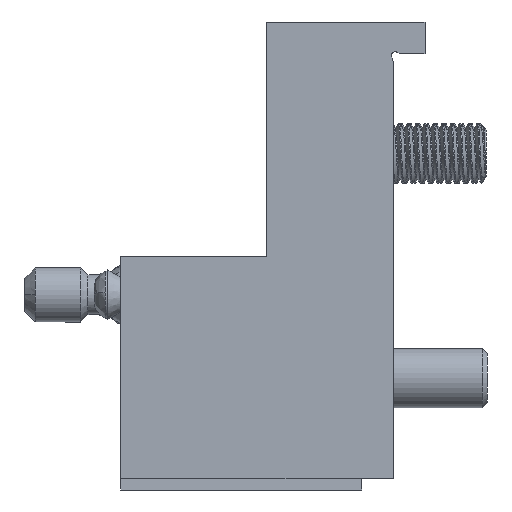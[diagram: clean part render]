
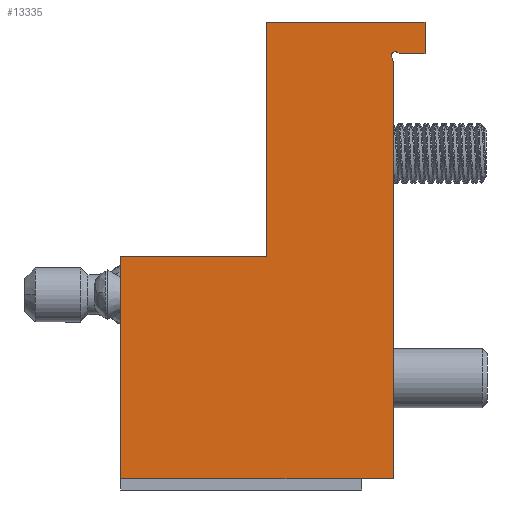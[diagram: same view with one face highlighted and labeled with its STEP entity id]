
A CAD part, left-side view. The second image highlights one B-rep face of the part: STEP entity #13335.
In plain terms, the highlighted planar face has unit normal (1, 0, 0).
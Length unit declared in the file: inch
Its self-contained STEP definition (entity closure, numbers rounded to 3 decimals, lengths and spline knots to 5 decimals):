
#66 = ORIENTED_EDGE ( 'NONE', *, *, #6141, .F. ) ;
#156 = AXIS2_PLACEMENT_3D ( 'NONE', #9825, #2448, #16868 ) ;
#159 = DIRECTION ( 'NONE',  ( 0., 0., -1. ) ) ;
#407 = LINE ( 'NONE', #3412, #14578 ) ;
#734 = VERTEX_POINT ( 'NONE', #14314 ) ;
#738 = CARTESIAN_POINT ( 'NONE',  ( -2., -1.15, 3.6 ) ) ;
#768 = EDGE_CURVE ( 'NONE', #17133, #955, #15894, .T. ) ;
#937 = EDGE_LOOP ( 'NONE', ( #66, #8645, #5757, #1065, #8304, #11691, #14600, #5799, #15997, #11624, #14728, #3555 ) ) ;
#955 = VERTEX_POINT ( 'NONE', #13618 ) ;
#991 = LINE ( 'NONE', #6737, #13673 ) ;
#1065 = ORIENTED_EDGE ( 'NONE', *, *, #1668, .T. ) ;
#1431 = CARTESIAN_POINT ( 'NONE',  ( -2., -3.28681, 3.32474 ) ) ;
#1668 = EDGE_CURVE ( 'NONE', #17007, #13761, #9230, .T. ) ;
#2448 = DIRECTION ( 'NONE',  ( 1., 0., 0. ) ) ;
#2635 = CARTESIAN_POINT ( 'NONE',  ( -2., -3.34588, 3.35 ) ) ;
#2799 = LINE ( 'NONE', #9882, #2997 ) ;
#2851 = CARTESIAN_POINT ( 'NONE',  ( -2., -3.315, 3.365 ) ) ;
#2997 = VECTOR ( 'NONE', #5806, 39.37008 ) ;
#3102 = CARTESIAN_POINT ( 'NONE',  ( -2., -1.15, 0. ) ) ;
#3380 = DIRECTION ( 'NONE',  ( 0., 0., 1. ) ) ;
#3412 = CARTESIAN_POINT ( 'NONE',  ( -2., -1.15, 3.35 ) ) ;
#3422 = CIRCLE ( 'NONE', #11856, 0.03 ) ;
#3555 = ORIENTED_EDGE ( 'NONE', *, *, #5485, .T. ) ;
#3613 = DIRECTION ( 'NONE',  ( 0., -1., 0. ) ) ;
#3686 = VECTOR ( 'NONE', #6879, 39.37008 ) ;
#3850 = VERTEX_POINT ( 'NONE', #2851 ) ;
#4806 = VERTEX_POINT ( 'NONE', #15428 ) ;
#4998 = VERTEX_POINT ( 'NONE', #10438 ) ;
#5334 = CARTESIAN_POINT ( 'NONE',  ( -2., -3.55, 3.6 ) ) ;
#5485 = EDGE_CURVE ( 'NONE', #3850, #15564, #14092, .T. ) ;
#5757 = ORIENTED_EDGE ( 'NONE', *, *, #14745, .T. ) ;
#5799 = ORIENTED_EDGE ( 'NONE', *, *, #768, .T. ) ;
#5806 = DIRECTION ( 'NONE',  ( 0., -0.819, -0.574 ) ) ;
#5892 = CARTESIAN_POINT ( 'NONE',  ( -2., -3.3, 3.2885 ) ) ;
#6141 = EDGE_CURVE ( 'NONE', #14053, #15564, #12312, .T. ) ;
#6329 = EDGE_CURVE ( 'NONE', #4998, #734, #6792, .T. ) ;
#6737 = CARTESIAN_POINT ( 'NONE',  ( -2., -1.15, 0. ) ) ;
#6792 = LINE ( 'NONE', #15455, #3686 ) ;
#6879 = DIRECTION ( 'NONE',  ( 0., 0., 1. ) ) ;
#7890 = CARTESIAN_POINT ( 'NONE',  ( -2., -1.15, 1.75 ) ) ;
#8099 = CARTESIAN_POINT ( 'NONE',  ( -2., -3.33221, 3.35957 ) ) ;
#8304 = ORIENTED_EDGE ( 'NONE', *, *, #16675, .T. ) ;
#8645 = ORIENTED_EDGE ( 'NONE', *, *, #10241, .F. ) ;
#9230 = LINE ( 'NONE', #738, #17320 ) ;
#9346 = EDGE_CURVE ( 'NONE', #734, #17133, #10777, .T. ) ;
#9489 = DIRECTION ( 'NONE',  ( 0., 0.342, 0.94 ) ) ;
#9825 = CARTESIAN_POINT ( 'NONE',  ( -2., -1.15, 3.6 ) ) ;
#9882 = CARTESIAN_POINT ( 'NONE',  ( -2., -3.34588, 3.35 ) ) ;
#10241 = EDGE_CURVE ( 'NONE', #4806, #14053, #10913, .T. ) ;
#10438 = CARTESIAN_POINT ( 'NONE',  ( -2., -2.3, 1.75 ) ) ;
#10468 = AXIS2_PLACEMENT_3D ( 'NONE', #14800, #16291, #3380 ) ;
#10777 = LINE ( 'NONE', #16527, #12682 ) ;
#10806 = VECTOR ( 'NONE', #16839, 39.37008 ) ;
#10850 = VECTOR ( 'NONE', #159, 39.37008 ) ;
#10886 = CARTESIAN_POINT ( 'NONE',  ( -2., -3.3, 3.2885 ) ) ;
#10913 = LINE ( 'NONE', #18181, #13883 ) ;
#11251 = VERTEX_POINT ( 'NONE', #2635 ) ;
#11285 = VERTEX_POINT ( 'NONE', #8099 ) ;
#11624 = ORIENTED_EDGE ( 'NONE', *, *, #16897, .F. ) ;
#11691 = ORIENTED_EDGE ( 'NONE', *, *, #6329, .T. ) ;
#11793 = EDGE_CURVE ( 'NONE', #955, #11251, #407, .T. ) ;
#11856 = AXIS2_PLACEMENT_3D ( 'NONE', #15500, #14101, #12689 ) ;
#12312 = LINE ( 'NONE', #10886, #17540 ) ;
#12682 = VECTOR ( 'NONE', #3613, 39.37008 ) ;
#12689 = DIRECTION ( 'NONE',  ( 0., 0., 1. ) ) ;
#13335 = ADVANCED_FACE ( 'NONE', ( #16775 ), #15357, .T. ) ;
#13618 = CARTESIAN_POINT ( 'NONE',  ( -2., -3.55, 3.35 ) ) ;
#13673 = VECTOR ( 'NONE', #16823, 39.37008 ) ;
#13761 = VERTEX_POINT ( 'NONE', #17957 ) ;
#13883 = VECTOR ( 'NONE', #16671, 39.37008 ) ;
#14053 = VERTEX_POINT ( 'NONE', #5892 ) ;
#14092 = CIRCLE ( 'NONE', #10468, 0.03 ) ;
#14101 = DIRECTION ( 'NONE',  ( -1., 0., 0. ) ) ;
#14212 = CARTESIAN_POINT ( 'NONE',  ( -2., -3.55, 3.6 ) ) ;
#14314 = CARTESIAN_POINT ( 'NONE',  ( -2., -2.3, 3.6 ) ) ;
#14578 = VECTOR ( 'NONE', #18120, 39.37008 ) ;
#14600 = ORIENTED_EDGE ( 'NONE', *, *, #9346, .T. ) ;
#14728 = ORIENTED_EDGE ( 'NONE', *, *, #17785, .T. ) ;
#14745 = EDGE_CURVE ( 'NONE', #4806, #17007, #991, .T. ) ;
#14800 = CARTESIAN_POINT ( 'NONE',  ( -2., -3.315, 3.335 ) ) ;
#15147 = LINE ( 'NONE', #7890, #10806 ) ;
#15357 = PLANE ( 'NONE',  #156 ) ;
#15428 = CARTESIAN_POINT ( 'NONE',  ( -2., -3.3, 0. ) ) ;
#15455 = CARTESIAN_POINT ( 'NONE',  ( -2., -2.3, 3.6 ) ) ;
#15500 = CARTESIAN_POINT ( 'NONE',  ( -2., -3.315, 3.335 ) ) ;
#15564 = VERTEX_POINT ( 'NONE', #1431 ) ;
#15894 = LINE ( 'NONE', #14212, #10850 ) ;
#15997 = ORIENTED_EDGE ( 'NONE', *, *, #11793, .T. ) ;
#16291 = DIRECTION ( 'NONE',  ( -1., 0., 0. ) ) ;
#16377 = DIRECTION ( 'NONE',  ( 0., 0., 1. ) ) ;
#16527 = CARTESIAN_POINT ( 'NONE',  ( -2., -1.15, 3.6 ) ) ;
#16671 = DIRECTION ( 'NONE',  ( 0., 0., 1. ) ) ;
#16675 = EDGE_CURVE ( 'NONE', #13761, #4998, #15147, .T. ) ;
#16775 = FACE_OUTER_BOUND ( 'NONE', #937, .T. ) ;
#16823 = DIRECTION ( 'NONE',  ( 0., 1., 0. ) ) ;
#16839 = DIRECTION ( 'NONE',  ( 0., -1., 0. ) ) ;
#16868 = DIRECTION ( 'NONE',  ( 0., 0., -1. ) ) ;
#16897 = EDGE_CURVE ( 'NONE', #11285, #11251, #2799, .T. ) ;
#17007 = VERTEX_POINT ( 'NONE', #3102 ) ;
#17133 = VERTEX_POINT ( 'NONE', #5334 ) ;
#17320 = VECTOR ( 'NONE', #16377, 39.37008 ) ;
#17540 = VECTOR ( 'NONE', #9489, 39.37008 ) ;
#17785 = EDGE_CURVE ( 'NONE', #11285, #3850, #3422, .T. ) ;
#17957 = CARTESIAN_POINT ( 'NONE',  ( -2., -1.15, 1.75 ) ) ;
#18120 = DIRECTION ( 'NONE',  ( 0., 1., 0. ) ) ;
#18181 = CARTESIAN_POINT ( 'NONE',  ( -2., -3.3, 3.6 ) ) ;
